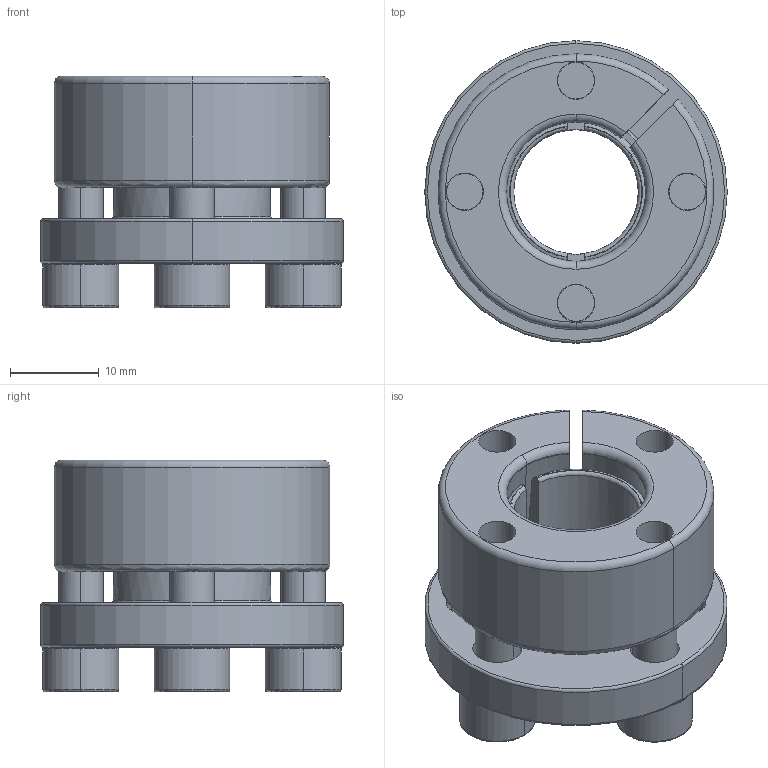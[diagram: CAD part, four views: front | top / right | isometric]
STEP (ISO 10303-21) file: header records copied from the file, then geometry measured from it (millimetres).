
FILE_DESCRIPTION (( 'STEP AP203' ), '1' );
FILE_NAME ('SAPL-B-14-31.STEP', '2013-07-11T10:40:19', ( 'MYCOM' ), ( '' ), 'SwSTEP 2.0', 'SolidWorks 2012', '' );
FILE_SCHEMA (( 'CONFIG_CONTROL_DESIGN' ));
Length unit declared in the file: millimetre
Products named in the file (1): SAPL-B-14-31
Bounding box: 34 x 34 x 26 mm (x, y, z)
Volume: 11942.8 mm3; surface area: 7388.8 mm2
Topology: 1 solids, 1 shells, 212 faces, 518 edges, 308 vertices
Faces by surface type: plane 74, cylinder 53, torus 51, cone 34
Entity records: 6428 total; most frequent: CARTESIAN_POINT 1259, DIRECTION 1161, ORIENTED_EDGE 1020, EDGE_CURVE 510, AXIS2_PLACEMENT_3D 482, VERTEX_POINT 308, CIRCLE 269, EDGE_LOOP 238
